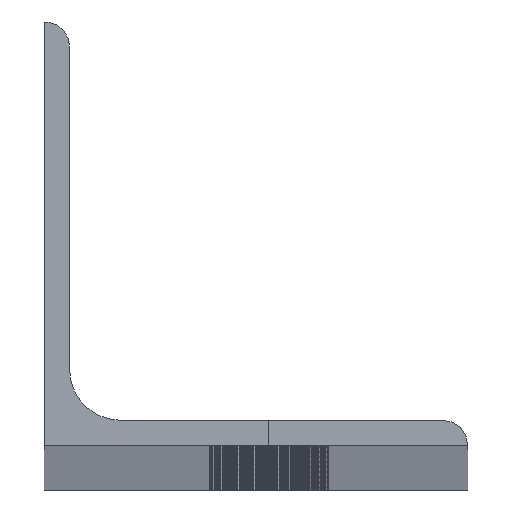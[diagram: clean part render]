
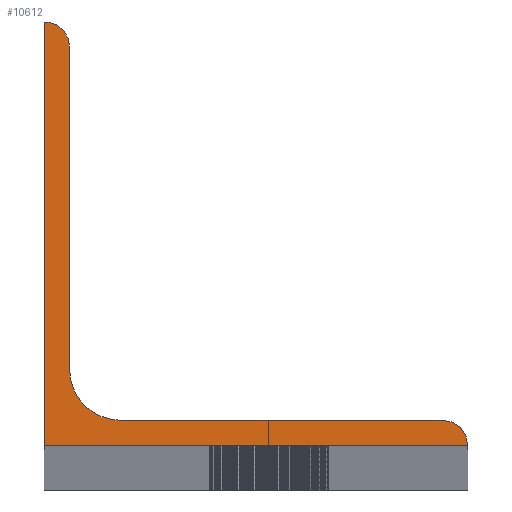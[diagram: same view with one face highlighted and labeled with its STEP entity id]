
A CAD part, top view. The second image highlights one B-rep face of the part: STEP entity #10612.
In plain terms, the highlighted planar face has unit normal (0, 0, 1).
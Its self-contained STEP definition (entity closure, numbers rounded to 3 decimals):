
#404 = DIRECTION ( 'NONE',  ( 1., 0., 0. ) ) ;
#643 = CARTESIAN_POINT ( 'NONE',  ( 0.446, 50., 3000. ) ) ;
#949 = DIRECTION ( 'NONE',  ( 1., 0., 0. ) ) ;
#1304 = CARTESIAN_POINT ( 'NONE',  ( 0., 0., 3000. ) ) ;
#1364 = EDGE_CURVE ( 'NONE', #9927, #4968, #4194, .T. ) ;
#1494 = DIRECTION ( 'NONE',  ( 0., 0., 1. ) ) ;
#1778 = CARTESIAN_POINT ( 'NONE',  ( 3., 47.033, 3000. ) ) ;
#2043 = CARTESIAN_POINT ( 'NONE',  ( 47., 3., 3000. ) ) ;
#2104 = CIRCLE ( 'NONE', #7670, 6. ) ;
#2174 = EDGE_CURVE ( 'NONE', #6968, #6406, #14292, .T. ) ;
#2370 = CARTESIAN_POINT ( 'NONE',  ( 9., 3., 3000. ) ) ;
#2392 = PLANE ( 'NONE',  #3509 ) ;
#2526 = EDGE_CURVE ( 'NONE', #11807, #9927, #2536, .T. ) ;
#2536 = CIRCLE ( 'NONE', #10647, 3. ) ;
#2901 = VERTEX_POINT ( 'NONE', #11578 ) ;
#3124 = DIRECTION ( 'NONE',  ( -1., 0., 0. ) ) ;
#3473 = ORIENTED_EDGE ( 'NONE', *, *, #14060, .T. ) ;
#3509 = AXIS2_PLACEMENT_3D ( 'NONE', #11439, #1494, #404 ) ;
#3629 = CARTESIAN_POINT ( 'NONE',  ( 50., 0., 3000. ) ) ;
#3840 = EDGE_LOOP ( 'NONE', ( #3473, #13253, #11390, #12285, #9983, #9632, #11914, #13042 ) ) ;
#3981 = DIRECTION ( 'NONE',  ( 0., 0., 1. ) ) ;
#4194 = LINE ( 'NONE', #8626, #8850 ) ;
#4259 = CARTESIAN_POINT ( 'NONE',  ( 0., 50., 3000. ) ) ;
#4429 = DIRECTION ( 'NONE',  ( 0., 0., 1. ) ) ;
#4593 = CARTESIAN_POINT ( 'NONE',  ( 3., 9., 3000. ) ) ;
#4968 = VERTEX_POINT ( 'NONE', #2370 ) ;
#5207 = EDGE_CURVE ( 'NONE', #8647, #11807, #10712, .T. ) ;
#5542 = EDGE_CURVE ( 'NONE', #6406, #7695, #14294, .T. ) ;
#6363 = CARTESIAN_POINT ( 'NONE',  ( 0., 0., 3000. ) ) ;
#6406 = VERTEX_POINT ( 'NONE', #1778 ) ;
#6968 = VERTEX_POINT ( 'NONE', #4593 ) ;
#7257 = VECTOR ( 'NONE', #8419, 1000. ) ;
#7670 = AXIS2_PLACEMENT_3D ( 'NONE', #13072, #11767, #3124 ) ;
#7695 = VERTEX_POINT ( 'NONE', #13392 ) ;
#8419 = DIRECTION ( 'NONE',  ( -1., 0., 0. ) ) ;
#8626 = CARTESIAN_POINT ( 'NONE',  ( 47., 3., 3000. ) ) ;
#8647 = VERTEX_POINT ( 'NONE', #1304 ) ;
#8850 = VECTOR ( 'NONE', #13046, 1000. ) ;
#9557 = LINE ( 'NONE', #4259, #13007 ) ;
#9632 = ORIENTED_EDGE ( 'NONE', *, *, #12808, .T. ) ;
#9694 = DIRECTION ( 'NONE',  ( 0., -1., 0. ) ) ;
#9927 = VERTEX_POINT ( 'NONE', #2043 ) ;
#9983 = ORIENTED_EDGE ( 'NONE', *, *, #1364, .T. ) ;
#10584 = LINE ( 'NONE', #643, #7257 ) ;
#10586 = AXIS2_PLACEMENT_3D ( 'NONE', #10886, #4429, #949 ) ;
#10612 = ADVANCED_FACE ( 'NONE', ( #13422 ), #2392, .T. ) ;
#10647 = AXIS2_PLACEMENT_3D ( 'NONE', #13119, #3981, #13927 ) ;
#10699 = EDGE_CURVE ( 'NONE', #2901, #8647, #9557, .T. ) ;
#10712 = LINE ( 'NONE', #6363, #14062 ) ;
#10810 = CARTESIAN_POINT ( 'NONE',  ( 3., 9., 3000. ) ) ;
#10886 = CARTESIAN_POINT ( 'NONE',  ( 0., 47.033, 3000. ) ) ;
#11390 = ORIENTED_EDGE ( 'NONE', *, *, #5207, .T. ) ;
#11439 = CARTESIAN_POINT ( 'NONE',  ( 47., 0., 3000. ) ) ;
#11578 = CARTESIAN_POINT ( 'NONE',  ( 0., 50., 3000. ) ) ;
#11580 = VECTOR ( 'NONE', #13133, 1000. ) ;
#11767 = DIRECTION ( 'NONE',  ( 0., 0., -1. ) ) ;
#11807 = VERTEX_POINT ( 'NONE', #3629 ) ;
#11914 = ORIENTED_EDGE ( 'NONE', *, *, #2174, .T. ) ;
#12285 = ORIENTED_EDGE ( 'NONE', *, *, #2526, .T. ) ;
#12808 = EDGE_CURVE ( 'NONE', #4968, #6968, #2104, .T. ) ;
#13007 = VECTOR ( 'NONE', #9694, 1000. ) ;
#13042 = ORIENTED_EDGE ( 'NONE', *, *, #5542, .T. ) ;
#13046 = DIRECTION ( 'NONE',  ( -1., 0., 0. ) ) ;
#13072 = CARTESIAN_POINT ( 'NONE',  ( 9., 9., 3000. ) ) ;
#13119 = CARTESIAN_POINT ( 'NONE',  ( 47., 0., 3000. ) ) ;
#13133 = DIRECTION ( 'NONE',  ( 0., 1., 0. ) ) ;
#13253 = ORIENTED_EDGE ( 'NONE', *, *, #10699, .T. ) ;
#13392 = CARTESIAN_POINT ( 'NONE',  ( 0.446, 50., 3000. ) ) ;
#13422 = FACE_OUTER_BOUND ( 'NONE', #3840, .T. ) ;
#13911 = DIRECTION ( 'NONE',  ( 1., 0., 0. ) ) ;
#13927 = DIRECTION ( 'NONE',  ( 1., 0., 0. ) ) ;
#14060 = EDGE_CURVE ( 'NONE', #7695, #2901, #10584, .T. ) ;
#14062 = VECTOR ( 'NONE', #13911, 1000. ) ;
#14292 = LINE ( 'NONE', #10810, #11580 ) ;
#14294 = CIRCLE ( 'NONE', #10586, 3. ) ;
